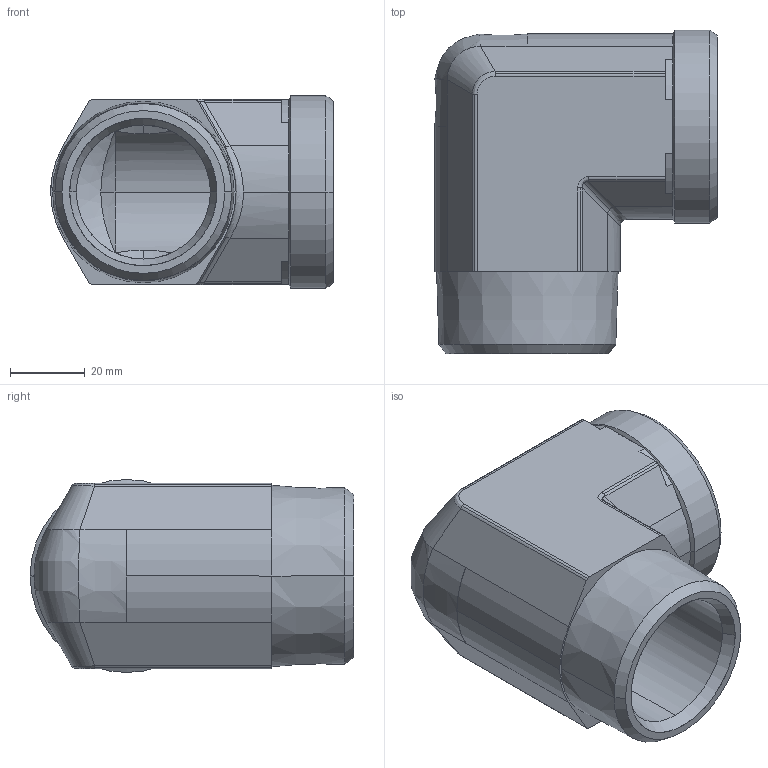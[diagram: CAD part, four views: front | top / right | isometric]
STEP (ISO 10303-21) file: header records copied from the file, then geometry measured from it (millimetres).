
FILE_DESCRIPTION((''),'2;1');
FILE_NAME('102013.stp','2007-10-30T16:28:28',(''),(''),'AutoCAD STEP 2000i','AutoCAD 2000i',', , ');
FILE_SCHEMA(('CONFIG_CONTROL_DESIGN'));
Length unit declared in the file: millimetre
Products named in the file (2): 102013.0; 3090#0
Assembly tree (1 placements, depth 2):
  102013.0
    3090#0
Bounding box: 75.88 x 86.91 x 51.82 mm (x, y, z)
Volume: 107547.1 mm3; surface area: 32348.4 mm2
Topology: 1 solids, 1 shells, 107 faces, 252 edges, 149 vertices
Faces by surface type: cylinder 46, plane 26, cone 21, bspline 14
Entity records: 4053 total; most frequent: CARTESIAN_POINT 1479, DIRECTION 550, ORIENTED_EDGE 504, EDGE_CURVE 252, AXIS2_PLACEMENT_3D 224, VERTEX_POINT 149, CIRCLE 111, EDGE_LOOP 111
